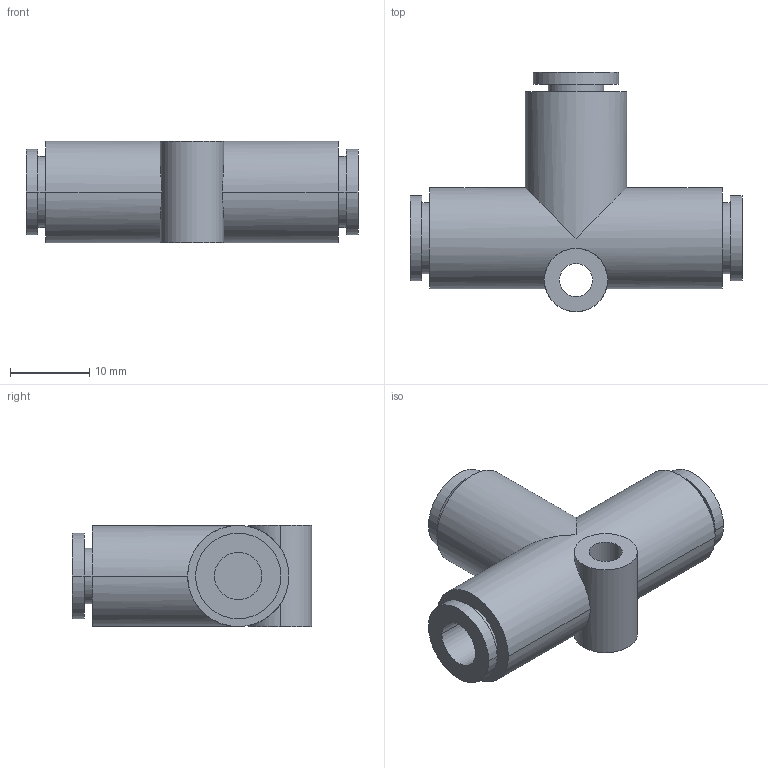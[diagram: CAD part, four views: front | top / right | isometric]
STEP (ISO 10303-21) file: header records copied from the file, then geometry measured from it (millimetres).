
FILE_DESCRIPTION( ( '' ), '1' );
FILE_NAME( 'G:/SMC狟婥/KQ2T06-04A.stp', '2023-03-07T03:32:20', ( '' ), ( '' ), ' ', ' ', ' ' );
FILE_SCHEMA( ( 'CONFIG_CONTROL_DESIGN' ) );
Length unit declared in the file: millimetre
Products named in the file (1): 1
Bounding box: 42 x 30.3 x 12.8 mm (x, y, z)
Volume: 6024 mm3; surface area: 3869.6 mm2
Topology: 1 solids, 1 shells, 41 faces, 90 edges, 60 vertices
Faces by surface type: cylinder 27, plane 14
Entity records: 1304 total; most frequent: CARTESIAN_POINT 302, DIRECTION 222, ORIENTED_EDGE 180, AXIS2_PLACEMENT_3D 96, EDGE_CURVE 90, VERTEX_POINT 60, EDGE_LOOP 52, CIRCLE 50
